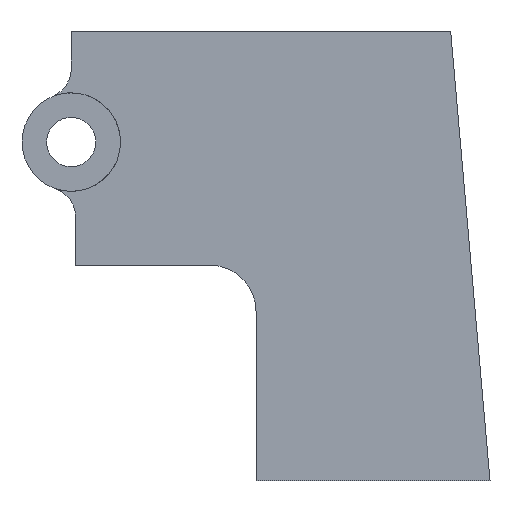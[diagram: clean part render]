
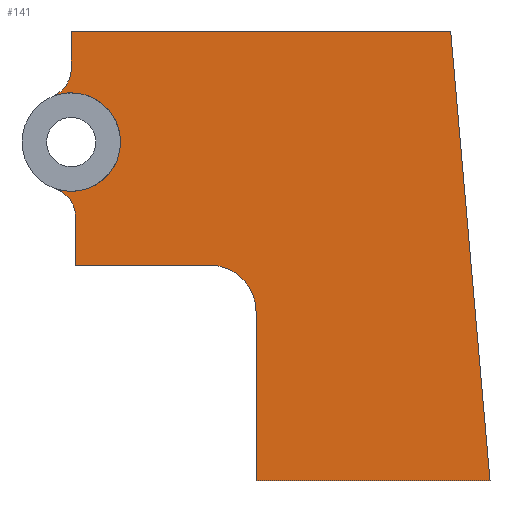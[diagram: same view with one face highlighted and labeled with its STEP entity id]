
A CAD part, top view. The second image highlights one B-rep face of the part: STEP entity #141.
In plain terms, the highlighted planar face has unit normal (0, 0, 1).
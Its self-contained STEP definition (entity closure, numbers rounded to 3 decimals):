
#6 = CARTESIAN_POINT ( 'NONE',  ( -58.523, 70., 1. ) ) ;
#8 = CARTESIAN_POINT ( 'NONE',  ( -60., 109.995, 1. ) ) ;
#14 = LINE ( 'NONE', #74, #190 ) ;
#26 = CARTESIAN_POINT ( 'NONE',  ( 0., 0., 1. ) ) ;
#33 = CARTESIAN_POINT ( 'NONE',  ( -58.523, 85.432, 1. ) ) ;
#47 = VERTEX_POINT ( 'NONE', #379 ) ;
#58 = DIRECTION ( 'NONE',  ( 0., 0., -1. ) ) ;
#59 = CIRCLE ( 'NONE', #368, 16. ) ;
#67 = VECTOR ( 'NONE', #559, 1000. ) ;
#74 = CARTESIAN_POINT ( 'NONE',  ( 76., 0., 1. ) ) ;
#78 = VECTOR ( 'NONE', #597, 1000. ) ;
#80 = ORIENTED_EDGE ( 'NONE', *, *, #613, .T. ) ;
#84 = CARTESIAN_POINT ( 'NONE',  ( -15., 55., 1. ) ) ;
#86 = CARTESIAN_POINT ( 'NONE',  ( -66.154, 124.764, 1. ) ) ;
#89 = DIRECTION ( 'NONE',  ( 0., 0., -1. ) ) ;
#106 = EDGE_CURVE ( 'NONE', #577, #410, #120, .T. ) ;
#111 = CIRCLE ( 'NONE', #270, 10. ) ;
#112 = DIRECTION ( 'NONE',  ( 1., 0., 0. ) ) ;
#120 = LINE ( 'NONE', #126, #78 ) ;
#122 = ORIENTED_EDGE ( 'NONE', *, *, #106, .T. ) ;
#126 = CARTESIAN_POINT ( 'NONE',  ( 0., 0., 1. ) ) ;
#127 = VERTEX_POINT ( 'NONE', #184 ) ;
#132 = FACE_OUTER_BOUND ( 'NONE', #278, .T. ) ;
#133 = DIRECTION ( 'NONE',  ( -1., 0., 0. ) ) ;
#141 = ADVANCED_FACE ( 'NONE', ( #132 ), #193, .F. ) ;
#149 = CARTESIAN_POINT ( 'NONE',  ( -15., 55., 1. ) ) ;
#153 = DIRECTION ( 'NONE',  ( 0., 0., -1. ) ) ;
#168 = EDGE_CURVE ( 'NONE', #660, #127, #14, .T. ) ;
#170 = ORIENTED_EDGE ( 'NONE', *, *, #343, .T. ) ;
#175 = DIRECTION ( 'NONE',  ( 0., 0., -1. ) ) ;
#179 = VERTEX_POINT ( 'NONE', #459 ) ;
#184 = CARTESIAN_POINT ( 'NONE',  ( 63.227, 145.995, 1. ) ) ;
#186 = CARTESIAN_POINT ( 'NONE',  ( -60., 133.995, 1. ) ) ;
#190 = VECTOR ( 'NONE', #346, 1000. ) ;
#193 = PLANE ( 'NONE',  #214 ) ;
#198 = DIRECTION ( 'NONE',  ( -1., 0., 0. ) ) ;
#210 = LINE ( 'NONE', #6, #370 ) ;
#211 = ORIENTED_EDGE ( 'NONE', *, *, #217, .T. ) ;
#213 = VERTEX_POINT ( 'NONE', #285 ) ;
#214 = AXIS2_PLACEMENT_3D ( 'NONE', #149, #153, #259 ) ;
#215 = VECTOR ( 'NONE', #133, 1000. ) ;
#217 = EDGE_CURVE ( 'NONE', #483, #490, #111, .T. ) ;
#234 = CARTESIAN_POINT ( 'NONE',  ( -60., 145.995, 1. ) ) ;
#249 = CARTESIAN_POINT ( 'NONE',  ( -58.523, 85.432, 1. ) ) ;
#250 = EDGE_CURVE ( 'NONE', #562, #387, #634, .T. ) ;
#252 = CARTESIAN_POINT ( 'NONE',  ( -60., 145.995, 1. ) ) ;
#254 = ORIENTED_EDGE ( 'NONE', *, *, #250, .T. ) ;
#259 = DIRECTION ( 'NONE',  ( -1., 0., 0. ) ) ;
#270 = AXIS2_PLACEMENT_3D ( 'NONE', #590, #58, #534 ) ;
#276 = DIRECTION ( 'NONE',  ( -1., 0., 0. ) ) ;
#278 = EDGE_LOOP ( 'NONE', ( #606, #653, #349, #211, #80, #170, #441, #122, #546, #371, #475, #254 ) ) ;
#285 = CARTESIAN_POINT ( 'NONE',  ( -44., 109.995, 1. ) ) ;
#292 = EDGE_CURVE ( 'NONE', #213, #483, #458, .T. ) ;
#323 = CARTESIAN_POINT ( 'NONE',  ( -60., 133.995, 1. ) ) ;
#326 = EDGE_CURVE ( 'NONE', #551, #213, #59, .T. ) ;
#343 = EDGE_CURVE ( 'NONE', #47, #179, #210, .T. ) ;
#346 = DIRECTION ( 'NONE',  ( -0.087, 0.996, 0. ) ) ;
#349 = ORIENTED_EDGE ( 'NONE', *, *, #292, .T. ) ;
#368 = AXIS2_PLACEMENT_3D ( 'NONE', #491, #175, #430 ) ;
#370 = VECTOR ( 'NONE', #112, 1000. ) ;
#371 = ORIENTED_EDGE ( 'NONE', *, *, #168, .T. ) ;
#375 = DIRECTION ( 'NONE',  ( 0., 0., -1. ) ) ;
#377 = AXIS2_PLACEMENT_3D ( 'NONE', #84, #89, #567 ) ;
#379 = CARTESIAN_POINT ( 'NONE',  ( -58.523, 70., 1. ) ) ;
#387 = VERTEX_POINT ( 'NONE', #186 ) ;
#388 = AXIS2_PLACEMENT_3D ( 'NONE', #8, #375, #276 ) ;
#396 = VECTOR ( 'NONE', #484, 1000. ) ;
#409 = CARTESIAN_POINT ( 'NONE',  ( -70., 133.995, 1. ) ) ;
#410 = VERTEX_POINT ( 'NONE', #26 ) ;
#411 = LINE ( 'NONE', #249, #67 ) ;
#430 = DIRECTION ( 'NONE',  ( -1., 0., 0. ) ) ;
#441 = ORIENTED_EDGE ( 'NONE', *, *, #568, .T. ) ;
#452 = EDGE_CURVE ( 'NONE', #127, #562, #548, .T. ) ;
#453 = DIRECTION ( 'NONE',  ( 1., 0., 0. ) ) ;
#458 = CIRCLE ( 'NONE', #388, 16. ) ;
#459 = CARTESIAN_POINT ( 'NONE',  ( -15., 70., 1. ) ) ;
#464 = EDGE_CURVE ( 'NONE', #410, #660, #492, .T. ) ;
#475 = ORIENTED_EDGE ( 'NONE', *, *, #452, .T. ) ;
#483 = VERTEX_POINT ( 'NONE', #556 ) ;
#484 = DIRECTION ( 'NONE',  ( 0., -1., 0. ) ) ;
#485 = EDGE_CURVE ( 'NONE', #387, #551, #505, .T. ) ;
#490 = VERTEX_POINT ( 'NONE', #33 ) ;
#491 = CARTESIAN_POINT ( 'NONE',  ( -60., 109.995, 1. ) ) ;
#492 = LINE ( 'NONE', #552, #602 ) ;
#505 = CIRCLE ( 'NONE', #638, 10. ) ;
#513 = CIRCLE ( 'NONE', #377, 15. ) ;
#516 = DIRECTION ( 'NONE',  ( 0., 0., -1. ) ) ;
#534 = DIRECTION ( 'NONE',  ( -1., 0., 0. ) ) ;
#546 = ORIENTED_EDGE ( 'NONE', *, *, #464, .T. ) ;
#548 = LINE ( 'NONE', #234, #215 ) ;
#551 = VERTEX_POINT ( 'NONE', #86 ) ;
#552 = CARTESIAN_POINT ( 'NONE',  ( 76., 0., 1. ) ) ;
#556 = CARTESIAN_POINT ( 'NONE',  ( -65.245, 94.879, 1. ) ) ;
#559 = DIRECTION ( 'NONE',  ( 0., -1., 0. ) ) ;
#562 = VERTEX_POINT ( 'NONE', #252 ) ;
#567 = DIRECTION ( 'NONE',  ( -1., 0., 0. ) ) ;
#568 = EDGE_CURVE ( 'NONE', #179, #577, #513, .T. ) ;
#577 = VERTEX_POINT ( 'NONE', #608 ) ;
#590 = CARTESIAN_POINT ( 'NONE',  ( -68.523, 85.432, 1. ) ) ;
#597 = DIRECTION ( 'NONE',  ( 0., -1., 0. ) ) ;
#602 = VECTOR ( 'NONE', #453, 1000. ) ;
#606 = ORIENTED_EDGE ( 'NONE', *, *, #485, .T. ) ;
#608 = CARTESIAN_POINT ( 'NONE',  ( 0., 55., 1. ) ) ;
#613 = EDGE_CURVE ( 'NONE', #490, #47, #411, .T. ) ;
#634 = LINE ( 'NONE', #323, #396 ) ;
#638 = AXIS2_PLACEMENT_3D ( 'NONE', #409, #516, #198 ) ;
#653 = ORIENTED_EDGE ( 'NONE', *, *, #326, .T. ) ;
#660 = VERTEX_POINT ( 'NONE', #670 ) ;
#670 = CARTESIAN_POINT ( 'NONE',  ( 76., 0., 1. ) ) ;
